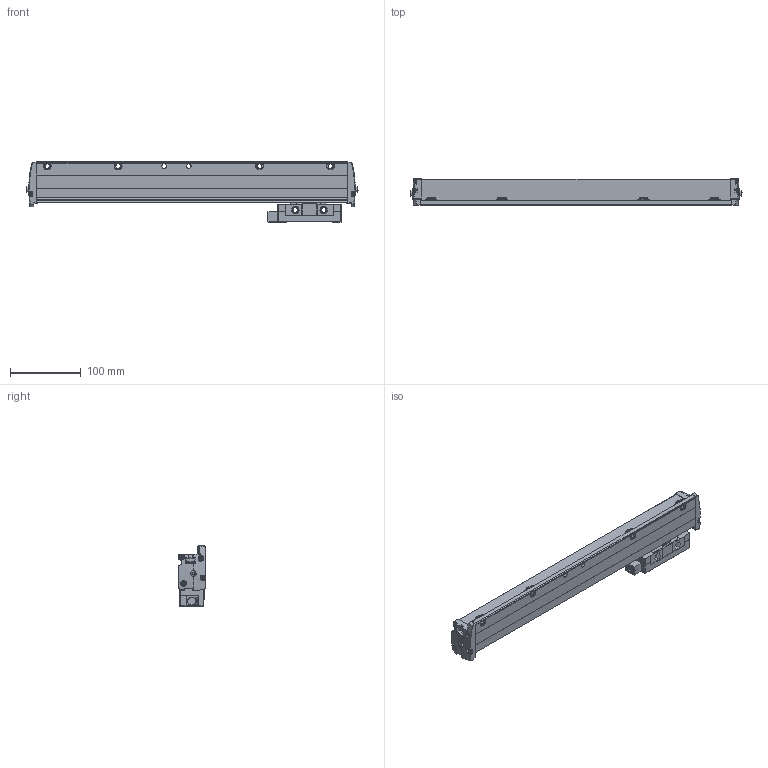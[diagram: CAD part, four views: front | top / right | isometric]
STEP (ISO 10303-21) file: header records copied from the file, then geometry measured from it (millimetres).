
FILE_DESCRIPTION(('Creo Elements/Direct Modeling STEP Export'),'2;1');
FILE_NAME('Regla G-340-vs4.stp','2015-08-28T14:17:52',(''),(''),'Creo Elements/Direct Modeling STEP processor for AP214 (Solid Model)','Creo Elements/Direct Modeling 18.1G 27-Feb-2015 (C) Parametric Technology GmbH','');
FILE_SCHEMA(('AUTOMOTIVE_DESIGN { 1 0 10303 214 1 1 1 1 }'));
Length unit declared in the file: millimetre
Products named in the file (3): Cabeza; Regla_G-340-VS4; Regla_serie_G-340-VS4
Assembly tree (2 placements, depth 2):
  Regla_serie_G-340-VS4
    Regla_G-340-VS4
    Cabeza
Bounding box: 468.92 x 38 x 85 mm (x, y, z)
Volume: 748672.8 mm3; surface area: 166673.3 mm2
Topology: 2 solids, 6 shells, 1520 faces, 4545 edges, 3033 vertices
Faces by surface type: cylinder 718, plane 682, cone 62, torus 31, sphere 21, bspline 5, extrusion 1
Entity records: 53915 total; most frequent: CARTESIAN_POINT 12930, ORIENTED_EDGE 9082, DIRECTION 8158, EDGE_CURVE 4541, VERTEX_POINT 3033, AXIS2_PLACEMENT_3D 2822, VECTOR 2514, LINE 2513
